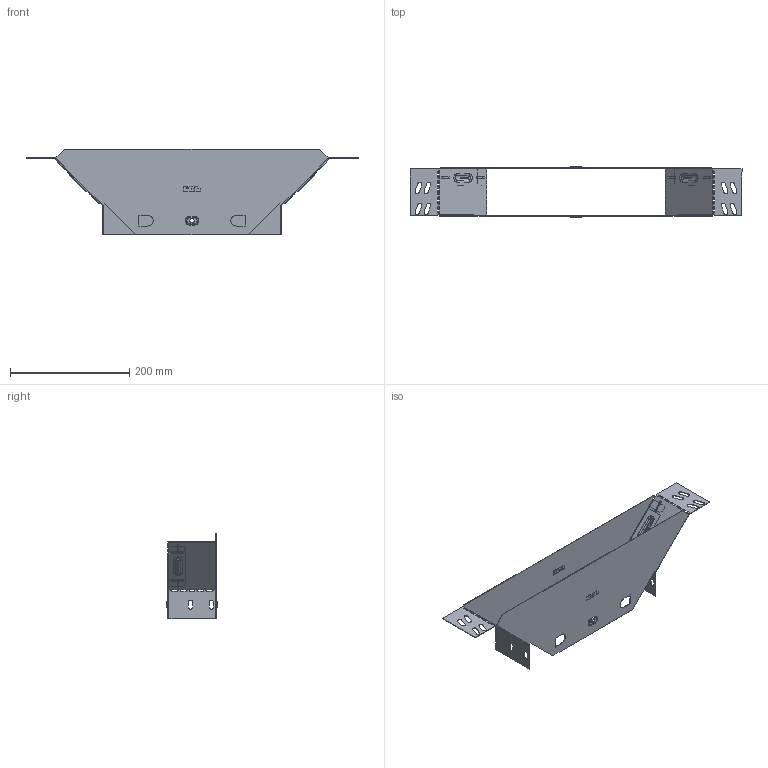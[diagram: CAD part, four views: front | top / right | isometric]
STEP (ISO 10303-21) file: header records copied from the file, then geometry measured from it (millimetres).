
FILE_DESCRIPTION (( 'STEP AP214' ), '1' );
FILE_NAME ('tn8030008_捘.STEP', '2019-06-10T08:00:37', ( '砐錪賧瘔蠈錪 Windows' ), ( '' ), 'SwSTEP 2.0', 'SolidWorks 2018', '' );
FILE_SCHEMA (( 'AUTOMOTIVE_DESIGN' ));
Length unit declared in the file: millimetre
Products named in the file (1): tn8030008_捘
Bounding box: 556.02 x 83.8 x 144 mm (x, y, z)
Volume: 103149.6 mm3; surface area: 261654.7 mm2
Topology: 2 solids, 2 shells, 658 faces, 1858 edges, 1180 vertices
Faces by surface type: plane 394, cylinder 198, torus 48, bspline 18
Entity records: 22113 total; most frequent: CARTESIAN_POINT 4655, ORIENTED_EDGE 3716, DIRECTION 3572, EDGE_CURVE 1858, LINE 1354, VECTOR 1354, VERTEX_POINT 1180, AXIS2_PLACEMENT_3D 1109
